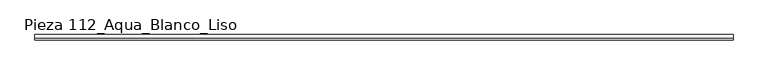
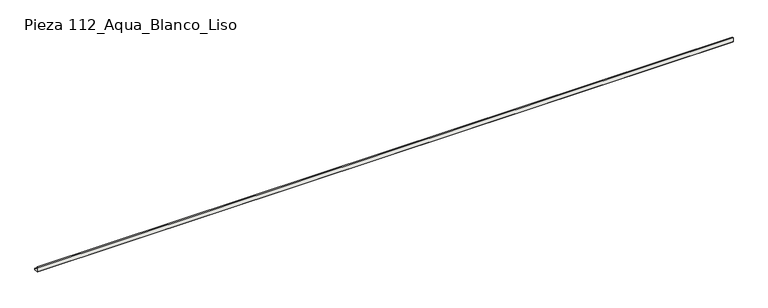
"""IFC4 building model written with IfcOpenShell, lengths in millimetres: slab geometry, ROSA GRES_112 : Pieza 112_Aqua_Blanco_Liso."""

from ifc_helpers import new_model, si_unit, point, frame, frame_2d, origin, place, context, project, spatial, polyline, circle_curve, trimmed, segment, composite_curve, outline, extrude, source, transform, mapped, element, save


def pieza_112_aqua_blanco_liso_caf45058(model_context):
    return source(origin(), model_context, "Body", "SweptSolid", [
        extrude(outline(composite_curve([segment(polyline([(-9.9734114, 8.7114978), (-9.9734114, 40.0), (0.0, 40.0)]), True, "CONTINUOUS"), segment(trimmed(circle_curve(frame_2d((30.0221432, 39.9955547)), 30.0221435), [point((0.0, 40.0))], [point((30.0265886, 9.9734114))], True, "CARTESIAN"), True, "CONTINUOUS"), segment(polyline([(30.0265886, 9.9734114), (30.0265886, 0.0), (-1.2619137, 0.0), (-9.9734114, 8.7114978)]), True, "CONTINUOUS")], self_intersect=False)), frame((0.0, 0.0, 0.0), z_axis=(1.0, 0.0, 0.0), x_axis=(0.0, 1.0, 0.0)), (0.0, 0.0, 1.0), 5250.0),
    ])


if __name__ == "__main__":
    model = new_model("IFC4")
    model_context = context("Model", 3, world=origin())
    ifc_project = project(units=[si_unit("LENGTHUNIT", "METRE", prefix="MILLI")], contexts=[model_context])
    site = spatial("IfcSite", under=ifc_project)
    building = spatial("IfcBuilding", under=site)
    placement = place(None, origin())
    pieza_112_aqua_blanco_liso_shape = pieza_112_aqua_blanco_liso_caf45058(model_context)
    element("IfcSlab", 1, ObjectType="ROSA GRES_112 : Pieza 112_Aqua_Blanco_Liso", at=placement, inside=building, context=model_context, shape_type="MappedRepresentation", body=[
        mapped(pieza_112_aqua_blanco_liso_shape, transform((0.0, 0.0, 0.0), x_axis=(1.0, 0.0, 0.0), y_axis=(0.0, 1.0, 0.0), z_axis=(0.0, 0.0, 1.0))),
    ])
    save(model, "model.ifc")
